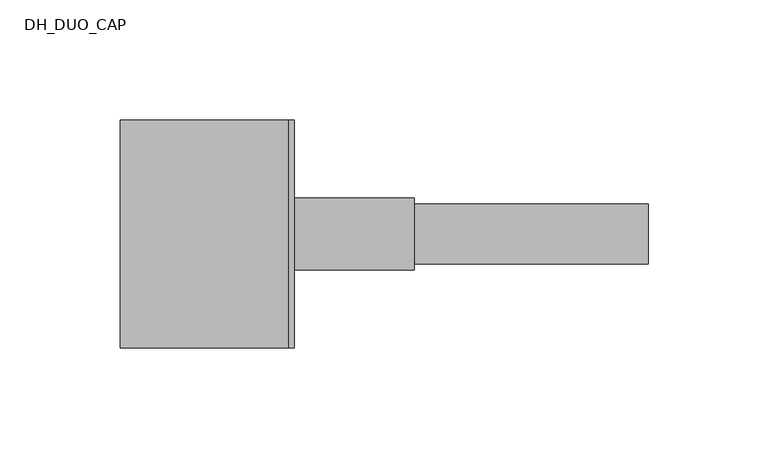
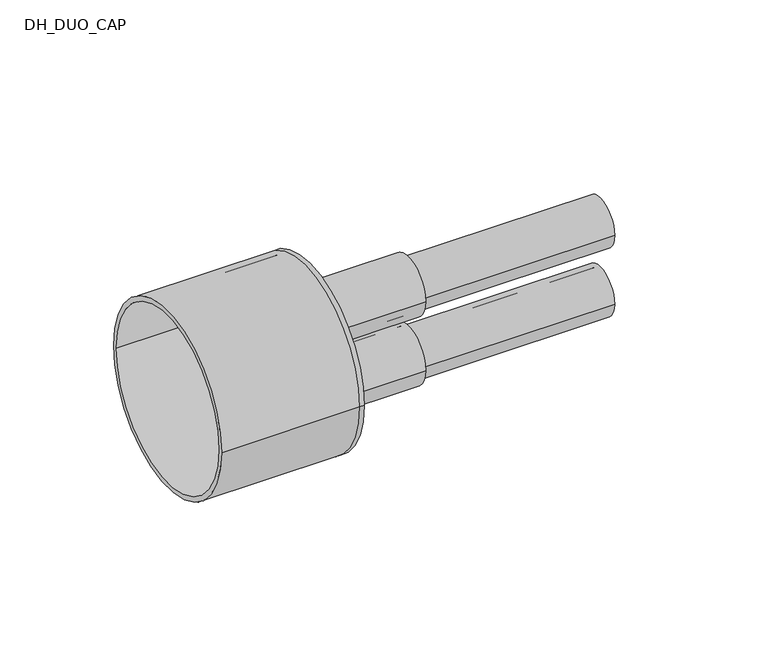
"""IFC4 building model written with IfcOpenShell, lengths in millimetres: pipe fitting geometry, DH_DUO_CAP : INSULPEX DUO 11 Heating - Rubber Cap."""

from ifc_helpers import new_model, si_unit, point, frame, frame_2d, origin, place, context, project, spatial, polyline, circle_curve, trimmed, segment, composite_curve, outline, extrude, source, transform, mapped, element, save
from ifc_brep_helpers import plane_surface, cylinder_surface, revolved_surface, advanced_brep


def dh_duo_cap_3647724c(model_context):
    return source(origin(), model_context, "Body", "SolidModel", [
        extrude(outline(composite_curve([segment(trimmed(circle_curve(frame_2d((0.0, -18.5)), 12.5), [point((-12.5, -18.5))], [point((12.5, -18.5))], False, "CARTESIAN"), True, "CONTINUOUS"), segment(trimmed(circle_curve(frame_2d((0.0, -18.5)), 12.5), [point((12.5, -18.5))], [point((-12.5, -18.5))], False, "CARTESIAN"), True, "CONTINUOUS")], self_intersect=False), holes=[composite_curve([segment(trimmed(circle_curve(frame_2d((0.0, -18.5)), 10.2), [point((-10.2, -18.5))], [point((10.2, -18.5))], True, "CARTESIAN"), True, "CONTINUOUS"), segment(trimmed(circle_curve(frame_2d((0.0, -18.5)), 10.2), [point((10.2, -18.5))], [point((-10.2, -18.5))], True, "CARTESIAN"), True, "CONTINUOUS")], self_intersect=False)]), frame((0.0, 0.0, 0.0), z_axis=(1.0, 0.0, 0.0), x_axis=(0.0, 1.0, 0.0)), (0.0, 0.0, 1.0), 150.0),
        extrude(outline(composite_curve([segment(trimmed(circle_curve(frame_2d((0.0, 18.5)), 12.5), [point((-12.5, 18.5))], [point((12.5, 18.5))], False, "CARTESIAN"), True, "CONTINUOUS"), segment(trimmed(circle_curve(frame_2d((0.0, 18.5)), 12.5), [point((12.5, 18.5))], [point((-12.5, 18.5))], False, "CARTESIAN"), True, "CONTINUOUS")], self_intersect=False), holes=[composite_curve([segment(trimmed(circle_curve(frame_2d((0.0, 18.5)), 10.2), [point((-10.2, 18.5))], [point((10.2, 18.5))], True, "CARTESIAN"), True, "CONTINUOUS"), segment(trimmed(circle_curve(frame_2d((0.0, 18.5)), 10.2), [point((10.2, 18.5))], [point((-10.2, 18.5))], True, "CARTESIAN"), True, "CONTINUOUS")], self_intersect=False)]), frame((0.0, 0.0, 0.0), z_axis=(1.0, 0.0, 0.0), x_axis=(0.0, 1.0, 0.0)), (0.0, 0.0, 1.0), 150.0),
        advanced_brep(
        [(-70.0, -47.5, 0.0), (-70.0, 47.5, 0.0), (-70.0, -45.0, 0.0), (-70.0, 45.0, 0.0), (0.0, -45.0, 0.0), (0.0, 45.0, 0.0), (0.0, -47.5, 0.0), (0.0, 47.5, 0.0), (0.0, 12.5, 18.5), (0.0, -12.5, 18.5), (0.0, 12.5, -18.5), (0.0, -12.5, -18.5), (2.5, -47.5, 0.0), (2.5, 47.5, 0.0), (2.5, -12.5, 18.5), (2.5, 12.5, 18.5), (2.5, -12.5, -18.5), (2.5, 12.5, -18.5)],
        [
            (0, 1, circle_curve(frame((-70.0, 0.0, 0.0), z_axis=(-1.0, 0.0, 0.0), x_axis=(0.0, 1.0, 0.0)), 47.5)),
            (1, 0, circle_curve(frame((-70.0, 0.0, 0.0), z_axis=(-1.0, 0.0, 0.0), x_axis=(0.0, 1.0, 0.0)), 47.5)),
            (2, 3, circle_curve(frame((-70.0, 0.0, 0.0), z_axis=(1.0, 0.0, 0.0), x_axis=(0.0, 1.0, 0.0)), 45.0)),
            (3, 2, circle_curve(frame((-70.0, 0.0, 0.0), z_axis=(1.0, 0.0, 0.0), x_axis=(0.0, 1.0, 0.0)), 45.0)),
            (2, 4),
            (4, 5, circle_curve(frame((0.0, 0.0, 0.0), z_axis=(1.0, 0.0, 0.0), x_axis=(0.0, 1.0, 0.0)), 45.0)),
            (5, 3),
            (5, 4, circle_curve(frame((0.0, 0.0, 0.0), z_axis=(1.0, 0.0, 0.0), x_axis=(0.0, 1.0, 0.0)), 45.0)),
            (0, 6),
            (6, 7, circle_curve(frame((0.0, 0.0, 0.0), z_axis=(-1.0, 0.0, 0.0), x_axis=(0.0, 1.0, 0.0)), 47.5)),
            (7, 1),
            (7, 6, circle_curve(frame((0.0, 0.0, 0.0), z_axis=(-1.0, 0.0, 0.0), x_axis=(0.0, 1.0, 0.0)), 47.5)),
            (8, 9, circle_curve(frame((0.0, 0.0, 18.5), z_axis=(1.0, 0.0, 0.0), x_axis=(0.0, 1.0, 0.0)), 12.5)),
            (9, 8, circle_curve(frame((0.0, 0.0, 18.5), z_axis=(1.0, 0.0, 0.0), x_axis=(0.0, 1.0, 0.0)), 12.5)),
            (10, 11, circle_curve(frame((0.0, 0.0, -18.5), z_axis=(1.0, 0.0, 0.0), x_axis=(0.0, 1.0, 0.0)), 12.5)),
            (11, 10, circle_curve(frame((0.0, 0.0, -18.5), z_axis=(1.0, 0.0, 0.0), x_axis=(0.0, 1.0, 0.0)), 12.5)),
            (12, 13, circle_curve(frame((2.5, 0.0, 0.0), z_axis=(1.0, 0.0, 0.0), x_axis=(0.0, 1.0, 0.0)), 47.5)),
            (13, 12, circle_curve(frame((2.5, 0.0, 0.0), z_axis=(1.0, 0.0, 0.0), x_axis=(0.0, 1.0, 0.0)), 47.5)),
            (14, 15, circle_curve(frame((2.5, 0.0, 18.5), z_axis=(-1.0, 0.0, 0.0), x_axis=(0.0, 1.0, 0.0)), 12.5)),
            (15, 14, circle_curve(frame((2.5, 0.0, 18.5), z_axis=(-1.0, 0.0, 0.0), x_axis=(0.0, 1.0, 0.0)), 12.5)),
            (16, 17, circle_curve(frame((2.5, 0.0, -18.5), z_axis=(-1.0, 0.0, 0.0), x_axis=(0.0, 1.0, 0.0)), 12.5)),
            (17, 16, circle_curve(frame((2.5, 0.0, -18.5), z_axis=(-1.0, 0.0, 0.0), x_axis=(0.0, 1.0, 0.0)), 12.5)),
            (13, 7),
            (6, 12),
            (8, 15),
            (14, 9),
            (10, 17),
            (16, 11),
        ],
        [
            plane_surface(frame((-70.0, 0.0, 0.0), z_axis=(-1.0, 0.0, 0.0), x_axis=(0.0, 0.0, 1.0))),
            revolved_surface(polyline([(0.0, 45.0, 0.0), (-70.0, 45.0, 0.0)]), (-70.0, 0.0, 0.0), (1.0, 0.0, 0.0)),
            cylinder_surface(frame((-70.0, 0.0, 0.0), z_axis=(-1.0, 0.0, 0.0), x_axis=(0.0, 1.0, 0.0)), 47.5),
            plane_surface(frame((0.0, 0.0, 0.0), z_axis=(-1.0, 0.0, 0.0), x_axis=(0.0, 0.0, 1.0))),
            plane_surface(frame((2.5, 0.0, 0.0), z_axis=(1.0, 0.0, 0.0), x_axis=(0.0, 0.0, 1.0))),
            cylinder_surface(frame((0.0, 0.0, 0.0), z_axis=(-1.0, 0.0, 0.0), x_axis=(0.0, 1.0, 0.0)), 47.5),
            revolved_surface(polyline([(0.0, 12.5, 18.5), (2.5, 12.5, 18.5)]), (0.0, 0.0, 18.5), (-1.0, 0.0, 0.0)),
            revolved_surface(polyline([(0.0, 12.5, -18.5), (2.5, 12.5, -18.5)]), (0.0, 0.0, -18.5), (-1.0, 0.0, 0.0)),
        ],
        [
            (0, [[1, 2], [3, 4]]),
            (1, [[-3, 5, 6, 7]]),
            (1, [[-4, -7, 8, -5]]),
            (2, [[-1, 9, 10, 11]]),
            (2, [[-2, -11, 12, -9]]),
            (3, [[-6, -8], [13, 14], [15, 16]]),
            (4, [[17, 18], [19, 20], [21, 22]]),
            (5, [[-18, 23, -10, 24]]),
            (5, [[-17, -24, -12, -23]]),
            (6, [[25, -19, 26, -13]]),
            (6, [[-25, -14, -26, -20]]),
            (7, [[27, -21, 28, -15]]),
            (7, [[-27, -16, -28, -22]]),
        ],
    ),
        extrude(outline(composite_curve([segment(trimmed(circle_curve(frame_2d((0.0, -18.5)), 15.0), [point((-15.0, -18.5))], [point((15.0, -18.5))], False, "CARTESIAN"), True, "CONTINUOUS"), segment(trimmed(circle_curve(frame_2d((0.0, -18.5)), 15.0), [point((15.0, -18.5))], [point((-15.0, -18.5))], False, "CARTESIAN"), True, "CONTINUOUS")], self_intersect=False), holes=[composite_curve([segment(trimmed(circle_curve(frame_2d((0.0, -18.5)), 12.5), [point((-12.5, -18.5))], [point((12.5, -18.5))], True, "CARTESIAN"), True, "CONTINUOUS"), segment(trimmed(circle_curve(frame_2d((0.0, -18.5)), 12.5), [point((12.5, -18.5))], [point((-12.5, -18.5))], True, "CARTESIAN"), True, "CONTINUOUS")], self_intersect=False)]), frame((2.5, 0.0, 0.0), z_axis=(1.0, 0.0, 0.0), x_axis=(0.0, 1.0, 0.0)), (0.0, 0.0, 1.0), 50.0),
        extrude(outline(composite_curve([segment(trimmed(circle_curve(frame_2d((0.0, 18.5)), 15.0), [point((-15.0, 18.5))], [point((15.0, 18.5))], False, "CARTESIAN"), True, "CONTINUOUS"), segment(trimmed(circle_curve(frame_2d((0.0, 18.5)), 15.0), [point((15.0, 18.5))], [point((-15.0, 18.5))], False, "CARTESIAN"), True, "CONTINUOUS")], self_intersect=False), holes=[composite_curve([segment(trimmed(circle_curve(frame_2d((0.0, 18.5)), 12.5), [point((-12.5, 18.5))], [point((12.5, 18.5))], True, "CARTESIAN"), True, "CONTINUOUS"), segment(trimmed(circle_curve(frame_2d((0.0, 18.5)), 12.5), [point((12.5, 18.5))], [point((-12.5, 18.5))], True, "CARTESIAN"), True, "CONTINUOUS")], self_intersect=False)]), frame((2.5, 0.0, 0.0), z_axis=(1.0, 0.0, 0.0), x_axis=(0.0, 1.0, 0.0)), (0.0, 0.0, 1.0), 50.0),
    ])


if __name__ == "__main__":
    model = new_model("IFC4")
    model_context = context("Model", 3, world=origin())
    ifc_project = project(units=[si_unit("LENGTHUNIT", "METRE", prefix="MILLI")], contexts=[model_context])
    site = spatial("IfcSite", under=ifc_project)
    building = spatial("IfcBuilding", under=site)
    placement = place(None, origin())
    dh_duo_cap_shape = dh_duo_cap_3647724c(model_context)
    element("IfcPipeFitting", 1, ObjectType="DH_DUO_CAP : INSULPEX DUO 11 Heating - Rubber Cap", at=placement, inside=building, context=model_context, shape_type="MappedRepresentation", body=[
        mapped(dh_duo_cap_shape, transform((0.0, 0.0, 0.0), x_axis=(1.0, 0.0, 0.0), y_axis=(0.0, 1.0, 0.0), z_axis=(0.0, 0.0, 1.0))),
    ])
    save(model, "model.ifc")
